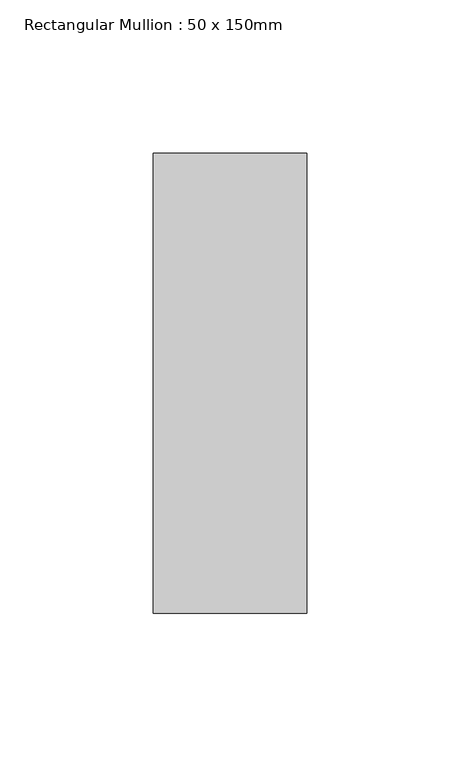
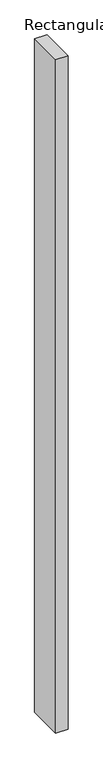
"""IFC4 building model written with IfcOpenShell, lengths in millimetres: member geometry, Rectangular Mullion : 50 x 150mm."""

import ifcopenshell
import ifcopenshell.guid

model = None  # the IFC model being written
_history = None  # IfcOwnerHistory: only IFC2X3 demands one
_inside = {}  # id of a spatial element -> (the spatial element, [elements in it])
_under = {}  # id of a project, library or spatial element -> (it, [spatial elements below it])
_declared = {}  # id of a project -> (the project, [libraries it declares])
_typed = {}  # id of a type object -> (the type object, [elements of that type])
_made_of = {}  # id of a material, layer set ... -> (it, [elements and type objects made of it])


def new_model(schema):
    """Start an empty IFC model of exactly this schema.

    Asked for "IFC4X3", IfcOpenShell would pick the latest addendum, in which some entities
    have other attributes; the version numbers below select the first issue.
    IFC2X3 requires an IfcOwnerHistory on every rooted entity: one is made here for all.
    """
    global model, _history
    if schema == "IFC4X3":
        model = ifcopenshell.file(schema_version=(4, 3, 0, 0))
    else:
        model = ifcopenshell.file(schema=schema)
    _inside.clear()
    _under.clear()
    _declared.clear()
    _typed.clear()
    _made_of.clear()
    _history = None
    if model.schema == "IFC2X3":
        org = make("IfcOrganization", Name="unknown")
        user = make(
            "IfcPersonAndOrganization",
            ThePerson=make("IfcPerson", FamilyName="unknown"),
            TheOrganization=org,
        )
        app = make(
            "IfcApplication",
            ApplicationDeveloper=org,
            Version="unknown",
            ApplicationFullName="unknown",
            ApplicationIdentifier="unknown",
        )
        _history = make(
            "IfcOwnerHistory",
            OwningUser=user,
            OwningApplication=app,
            ChangeAction="ADDED",
            CreationDate=0,
        )
    return model


def make(cls, **values):
    """One entity of the class cls with the attributes given. An attribute that is None is left unset."""
    return model.create_entity(
        cls, **{name: value for name, value in values.items() if value is not None}
    )


def rooted(cls, **values):
    """An entity with a GlobalId (a new one), such as an element, a storey or a relation."""
    return make(cls, GlobalId=ifcopenshell.guid.new(), OwnerHistory=_history, **values)


def si_unit(unit_type, name, prefix=None):
    """IfcSIUnit, for example si_unit("LENGTHUNIT", "METRE", prefix="MILLI")."""
    return make("IfcSIUnit", UnitType=unit_type, Prefix=prefix, Name=name)


def assignment(units):
    """IfcUnitAssignment: the units of a project."""
    return None if units is None else make("IfcUnitAssignment", Units=units)


def point(xyz):
    """IfcCartesianPoint."""
    return None if xyz is None else make("IfcCartesianPoint", Coordinates=xyz)


def direction(xyz):
    """IfcDirection."""
    return None if xyz is None else make("IfcDirection", DirectionRatios=xyz)


def frame(location, z_axis=None, x_axis=None):
    """IfcAxis2Placement3D, a coordinate frame: its origin and axes. An axis left out is left unset."""
    return make(
        "IfcAxis2Placement3D",
        Location=point(location),
        Axis=direction(z_axis),
        RefDirection=direction(x_axis),
    )


def origin():
    """The frame at (0, 0, 0) with its axes left unset."""
    return frame((0.0, 0.0, 0.0))


def place(relative_to, where):
    """IfcLocalPlacement: puts the frame where relative to a parent placement (None: the world)."""
    return make(
        "IfcLocalPlacement", PlacementRelTo=relative_to, RelativePlacement=where
    )


def context(
    kind, dimensions, precision=None, world=None, true_north=None, identifier=None
):
    """IfcGeometricRepresentationContext, for example the 3D "Model" context."""
    return make(
        "IfcGeometricRepresentationContext",
        ContextIdentifier=identifier,
        ContextType=kind,
        CoordinateSpaceDimension=dimensions,
        Precision=precision,
        WorldCoordinateSystem=world,
        TrueNorth=true_north,
    )


def project(units=None, contexts=None):
    """IfcProject with its units and contexts."""
    return rooted(
        "IfcProject",
        Name="project",
        RepresentationContexts=contexts,
        UnitsInContext=assignment(units),
    )


def spatial(cls, under=None, at=None, **own):
    """A site, building, storey or space (cls), placed at a placement, below another one or the project."""
    s = rooted(cls, ObjectPlacement=at, **own)
    if under is not None:
        _under.setdefault(under.id(), (under, []))[1].append(s)
    return s


def polyline(points):
    """IfcPolyline through the points."""
    return make("IfcPolyline", Points=[point(p) for p in points])


def outline(outer, holes=None, kind="AREA"):
    """IfcArbitraryClosedProfileDef: a profile drawn as a closed curve; with holes, ...WithVoids."""
    if holes is None:
        return make("IfcArbitraryClosedProfileDef", ProfileType=kind, OuterCurve=outer)
    return make(
        "IfcArbitraryProfileDefWithVoids",
        ProfileType=kind,
        OuterCurve=outer,
        InnerCurves=holes,
    )


def extrude(swept, where, along, depth):
    """IfcExtrudedAreaSolid: the profile swept, set in the frame where, extruded along a direction by depth."""
    return make(
        "IfcExtrudedAreaSolid",
        SweptArea=swept,
        Position=where,
        ExtrudedDirection=direction(along),
        Depth=depth,
    )


def shape(context_of_items, identifier, shape_type, items):
    """IfcShapeRepresentation: the items that make up one representation, for example the "Body"."""
    return make(
        "IfcShapeRepresentation",
        ContextOfItems=context_of_items,
        RepresentationIdentifier=identifier,
        RepresentationType=shape_type,
        Items=items,
    )


def source(mapping_origin, context_of_items, identifier, shape_type, items):
    """IfcRepresentationMap: a shape defined once, which mapped items show again and again."""
    return make(
        "IfcRepresentationMap",
        MappingOrigin=mapping_origin,
        MappedRepresentation=shape(context_of_items, identifier, shape_type, items),
    )


def transform(
    local_origin,
    x_axis=None,
    y_axis=None,
    z_axis=None,
    scale=None,
    scale2=None,
    scale3=None,
    uniform=True,
):
    """IfcCartesianTransformationOperator3D, or its non-uniform kind. x_axis, y_axis, z_axis: its Axis1, 2, 3."""
    if uniform:
        return make(
            "IfcCartesianTransformationOperator3D",
            Axis1=direction(x_axis),
            Axis2=direction(y_axis),
            LocalOrigin=point(local_origin),
            Scale=scale,
            Axis3=direction(z_axis),
        )
    return make(
        "IfcCartesianTransformationOperator3DnonUniform",
        Axis1=direction(x_axis),
        Axis2=direction(y_axis),
        LocalOrigin=point(local_origin),
        Scale=scale,
        Axis3=direction(z_axis),
        Scale2=scale2,
        Scale3=scale3,
    )


def mapped(mapping_source, mapping_target):
    """IfcMappedItem: shows the shape of a source again, moved by a transform."""
    return make(
        "IfcMappedItem", MappingSource=mapping_source, MappingTarget=mapping_target
    )


def made_of(thing, what):
    """Note that an element or type object is made of a material, layer set ...; save() writes the relation."""
    if what is not None:
        _made_of.setdefault(what.id(), (what, []))[1].append(thing)
    return thing


def element(
    cls,
    number,
    at=None,
    inside=None,
    cuts=None,
    type_object=None,
    material=None,
    context=None,
    identifier="Body",
    shape_type=None,
    held_by="IfcProductDefinitionShape",
    body=None,
    shapes=None,
    **own,
):
    """One element of the class cls, such as IfcWall. Its Tag is "e" and its number.

    at: its placement. inside: the storey or other place that contains it. cuts: it is an
    opening in that element (IfcRelVoidsElement). A single representation is given by context,
    identifier, shape_type and body (its items); several are given by shapes. held_by: the class
    of the entity that holds the representations. save() writes the other relations.
    """
    e = rooted(cls, Tag="e%d" % number, ObjectPlacement=at, **own)
    if body is not None:
        shapes = [shape(context, identifier, shape_type, body)]
    if shapes is not None:
        e.Representation = make(held_by, Representations=shapes)
    if inside is not None:
        _inside.setdefault(inside.id(), (inside, []))[1].append(e)
    if cuts is not None:
        rooted(
            "IfcRelVoidsElement", RelatingBuildingElement=cuts, RelatedOpeningElement=e
        )
    if type_object is not None:
        _typed.setdefault(type_object.id(), (type_object, []))[1].append(e)
    return made_of(e, material)


def aggregate(whole, parts):
    """IfcRelAggregates: a whole, such as a stair, and the parts it consists of."""
    return rooted("IfcRelAggregates", RelatingObject=whole, RelatedObjects=parts)


def save(model, path):
    """Write the relations noted so far, then the file.

    IfcRelAggregates (storeys below a building ...), IfcRelContainedInSpatialStructure (elements
    in a storey), IfcRelDefinesByType, IfcRelAssociatesMaterial and IfcRelDeclares: one each for
    every whole, place, type object, material and project.
    """
    for whole, parts in _under.values():
        aggregate(whole, parts)
    for where, things in _inside.values():
        rooted(
            "IfcRelContainedInSpatialStructure",
            RelatedElements=things,
            RelatingStructure=where,
        )
    for kind, things in _typed.values():
        rooted("IfcRelDefinesByType", RelatedObjects=things, RelatingType=kind)
    for what, things in _made_of.values():
        rooted("IfcRelAssociatesMaterial", RelatedObjects=things, RelatingMaterial=what)
    for by, libraries in _declared.values():
        rooted("IfcRelDeclares", RelatingContext=by, RelatedDefinitions=libraries)
    model.write(path)


def rectangular_mullion_50_x_150mm_1a85c1a0(model_context):
    return source(origin(), model_context, "Body", "SweptSolid", [
        extrude(outline(polyline([(0.0, 75.0), (0.0, -75.0), (-50.0, -75.0), (-50.0, 75.0), (0.0, 75.0)])), frame((0.0, 0.0, -2925.0), z_axis=(0.0, 0.0, 1.0), x_axis=(1.0, 0.0, 0.0)), (0.0, 0.0, 1.0), 2925.0),
    ])


if __name__ == "__main__":
    model = new_model("IFC4")
    model_context = context("Model", 3, world=origin())
    ifc_project = project(units=[si_unit("LENGTHUNIT", "METRE", prefix="MILLI")], contexts=[model_context])
    site = spatial("IfcSite", under=ifc_project)
    building = spatial("IfcBuilding", under=site)
    placement = place(None, origin())
    rectangular_mullion_50_x_150mm_shape = rectangular_mullion_50_x_150mm_1a85c1a0(model_context)
    element("IfcMember", 1, ObjectType="Rectangular Mullion : 50 x 150mm", at=placement, inside=building, context=model_context, shape_type="MappedRepresentation", body=[
        mapped(rectangular_mullion_50_x_150mm_shape, transform((0.0, 0.0, 0.0), x_axis=(1.0, 0.0, 0.0), y_axis=(0.0, 1.0, 0.0), z_axis=(0.0, 0.0, 1.0))),
    ])
    save(model, "model.ifc")
